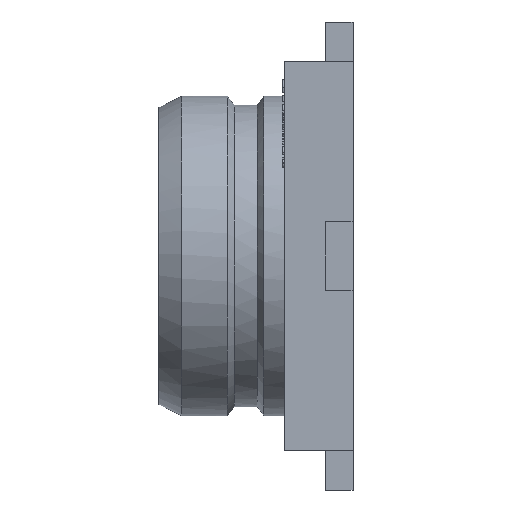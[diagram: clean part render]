
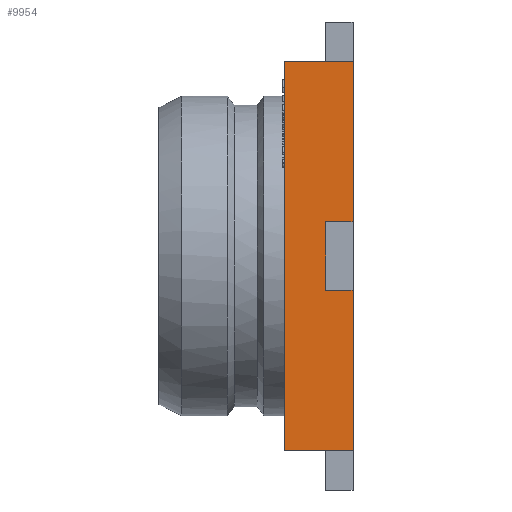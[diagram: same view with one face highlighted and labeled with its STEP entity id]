
A CAD part, left-side view. The second image highlights one B-rep face of the part: STEP entity #9954.
In plain terms, the highlighted free-form (B-spline) face has degree [1, 1] with [2, 2] control points.
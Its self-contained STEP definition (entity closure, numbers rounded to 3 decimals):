
#191 = FACE_OUTER_BOUND ( 'NONE', #7751, .T. ) ;
#345 = CARTESIAN_POINT ( 'NONE',  ( -0.85, 0.3, 0.85 ) ) ;
#1385 = B_SPLINE_SURFACE_WITH_KNOTS ( 'NONE', 1, 1, ( 
 ( #17375, #4184 ),
 ( #4368, #13028 ) ),
 .UNSPECIFIED., .F., .F., .F.,
 ( 2, 2 ),
 ( 2, 2 ),
 ( -0.034, 1.734 ),
 ( -0.006, 0.306 ),
 .UNSPECIFIED. ) ;
#1951 = ORIENTED_EDGE ( 'NONE', *, *, #14995, .F. ) ;
#2299 = CARTESIAN_POINT ( 'NONE',  ( -0.85, 0.12, 0.15 ) ) ;
#2475 = CARTESIAN_POINT ( 'NONE',  ( -0.85, 0.12, -0.15 ) ) ;
#2590 = B_SPLINE_CURVE_WITH_KNOTS ( 'NONE', 1,
 ( #6206, #8987 ),
 .UNSPECIFIED., .F., .F.,
 ( 2, 2 ),
 ( 0., 1. ),
 .UNSPECIFIED. ) ;
#2664 = CARTESIAN_POINT ( 'NONE',  ( -0.85, 0.3, -0.85 ) ) ;
#2904 = VERTEX_POINT ( 'NONE', #6891 ) ;
#3116 = VERTEX_POINT ( 'NONE', #345 ) ;
#3287 = B_SPLINE_CURVE_WITH_KNOTS ( 'NONE', 1,
 ( #15229, #2299 ),
 .UNSPECIFIED., .F., .F.,
 ( 2, 2 ),
 ( 0., 1. ),
 .UNSPECIFIED. ) ;
#4184 = CARTESIAN_POINT ( 'NONE',  ( -0.85, 0.306, -0.884 ) ) ;
#4368 = CARTESIAN_POINT ( 'NONE',  ( -0.85, -0.006, 0.884 ) ) ;
#4454 = ORIENTED_EDGE ( 'NONE', *, *, #13777, .T. ) ;
#4491 = EDGE_CURVE ( 'NONE', #5069, #6155, #3287, .T. ) ;
#5069 = VERTEX_POINT ( 'NONE', #9073 ) ;
#5089 = EDGE_CURVE ( 'NONE', #6155, #2904, #7798, .T. ) ;
#5672 = CARTESIAN_POINT ( 'NONE',  ( -0.85, 0., 0.85 ) ) ;
#5873 = CARTESIAN_POINT ( 'NONE',  ( -0.85, 0.3, -0.85 ) ) ;
#6155 = VERTEX_POINT ( 'NONE', #18531 ) ;
#6206 = CARTESIAN_POINT ( 'NONE',  ( -0.85, 0., -0.85 ) ) ;
#6868 = B_SPLINE_CURVE_WITH_KNOTS ( 'NONE', 1,
 ( #17109, #2475 ),
 .UNSPECIFIED., .F., .F.,
 ( 2, 2 ),
 ( 0., 1. ),
 .UNSPECIFIED. ) ;
#6891 = CARTESIAN_POINT ( 'NONE',  ( -0.85, 0., 0.15 ) ) ;
#7181 = EDGE_CURVE ( 'NONE', #2904, #18313, #7284, .T. ) ;
#7282 = CARTESIAN_POINT ( 'NONE',  ( -0.85, 0.3, 0.85 ) ) ;
#7284 = B_SPLINE_CURVE_WITH_KNOTS ( 'NONE', 1,
 ( #10729, #15166 ),
 .UNSPECIFIED., .F., .F.,
 ( 2, 2 ),
 ( 0., 1. ),
 .UNSPECIFIED. ) ;
#7751 = EDGE_LOOP ( 'NONE', ( #15140, #10243, #18146, #10193, #4454, #1951, #11606, #18668 ) ) ;
#7798 = B_SPLINE_CURVE_WITH_KNOTS ( 'NONE', 1,
 ( #11662, #17789 ),
 .UNSPECIFIED., .F., .F.,
 ( 2, 2 ),
 ( 0., 1. ),
 .UNSPECIFIED. ) ;
#8987 = CARTESIAN_POINT ( 'NONE',  ( -0.85, 0.3, -0.85 ) ) ;
#9073 = CARTESIAN_POINT ( 'NONE',  ( -0.85, 0.12, -0.15 ) ) ;
#9925 = CARTESIAN_POINT ( 'NONE',  ( -0.85, 0., -0.15 ) ) ;
#9954 = ADVANCED_FACE ( 'NONE', ( #191 ), #1385, .T. ) ;
#10193 = ORIENTED_EDGE ( 'NONE', *, *, #7181, .T. ) ;
#10243 = ORIENTED_EDGE ( 'NONE', *, *, #4491, .T. ) ;
#10729 = CARTESIAN_POINT ( 'NONE',  ( -0.85, 0., 0.15 ) ) ;
#11039 = B_SPLINE_CURVE_WITH_KNOTS ( 'NONE', 1,
 ( #2664, #14260 ),
 .UNSPECIFIED., .F., .F.,
 ( 2, 2 ),
 ( 0., 1. ),
 .UNSPECIFIED. ) ;
#11586 = VERTEX_POINT ( 'NONE', #11785 ) ;
#11606 = ORIENTED_EDGE ( 'NONE', *, *, #15810, .F. ) ;
#11662 = CARTESIAN_POINT ( 'NONE',  ( -0.85, 0.12, 0.15 ) ) ;
#11785 = CARTESIAN_POINT ( 'NONE',  ( -0.85, 0., -0.85 ) ) ;
#12123 = EDGE_CURVE ( 'NONE', #13046, #5069, #6868, .T. ) ;
#13028 = CARTESIAN_POINT ( 'NONE',  ( -0.85, 0.306, 0.884 ) ) ;
#13046 = VERTEX_POINT ( 'NONE', #17139 ) ;
#13777 = EDGE_CURVE ( 'NONE', #18313, #3116, #18626, .T. ) ;
#14260 = CARTESIAN_POINT ( 'NONE',  ( -0.85, 0.3, 0.85 ) ) ;
#14995 = EDGE_CURVE ( 'NONE', #18175, #3116, #11039, .T. ) ;
#15140 = ORIENTED_EDGE ( 'NONE', *, *, #12123, .T. ) ;
#15166 = CARTESIAN_POINT ( 'NONE',  ( -0.85, 0., 0.85 ) ) ;
#15229 = CARTESIAN_POINT ( 'NONE',  ( -0.85, 0.12, -0.15 ) ) ;
#15810 = EDGE_CURVE ( 'NONE', #11586, #18175, #2590, .T. ) ;
#15897 = B_SPLINE_CURVE_WITH_KNOTS ( 'NONE', 1,
 ( #18183, #9925 ),
 .UNSPECIFIED., .F., .F.,
 ( 2, 2 ),
 ( 0., 1. ),
 .UNSPECIFIED. ) ;
#17109 = CARTESIAN_POINT ( 'NONE',  ( -0.85, 0., -0.15 ) ) ;
#17139 = CARTESIAN_POINT ( 'NONE',  ( -0.85, 0., -0.15 ) ) ;
#17375 = CARTESIAN_POINT ( 'NONE',  ( -0.85, -0.006, -0.884 ) ) ;
#17639 = EDGE_CURVE ( 'NONE', #11586, #13046, #15897, .T. ) ;
#17729 = CARTESIAN_POINT ( 'NONE',  ( -0.85, 0., 0.85 ) ) ;
#17789 = CARTESIAN_POINT ( 'NONE',  ( -0.85, 0., 0.15 ) ) ;
#18146 = ORIENTED_EDGE ( 'NONE', *, *, #5089, .T. ) ;
#18175 = VERTEX_POINT ( 'NONE', #5873 ) ;
#18183 = CARTESIAN_POINT ( 'NONE',  ( -0.85, 0., -0.85 ) ) ;
#18313 = VERTEX_POINT ( 'NONE', #17729 ) ;
#18531 = CARTESIAN_POINT ( 'NONE',  ( -0.85, 0.12, 0.15 ) ) ;
#18626 = B_SPLINE_CURVE_WITH_KNOTS ( 'NONE', 1,
 ( #5672, #7282 ),
 .UNSPECIFIED., .F., .F.,
 ( 2, 2 ),
 ( 0., 1. ),
 .UNSPECIFIED. ) ;
#18668 = ORIENTED_EDGE ( 'NONE', *, *, #17639, .T. ) ;
